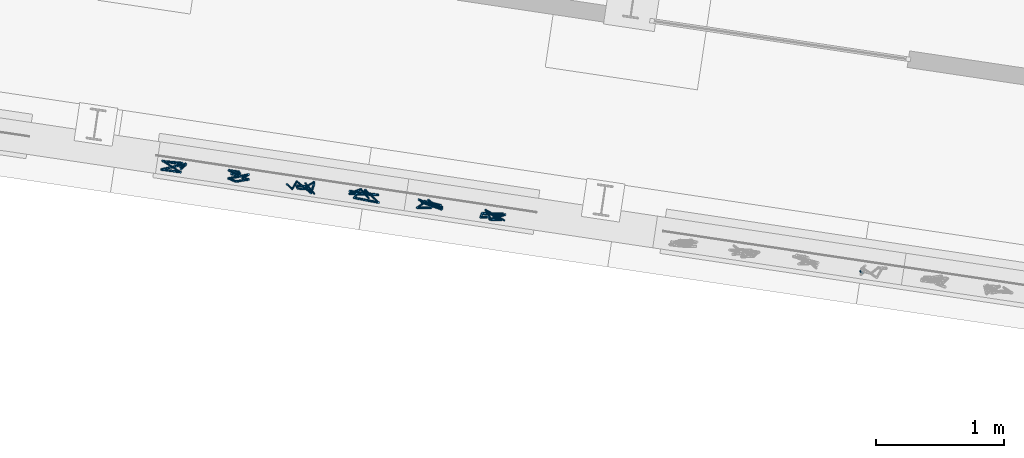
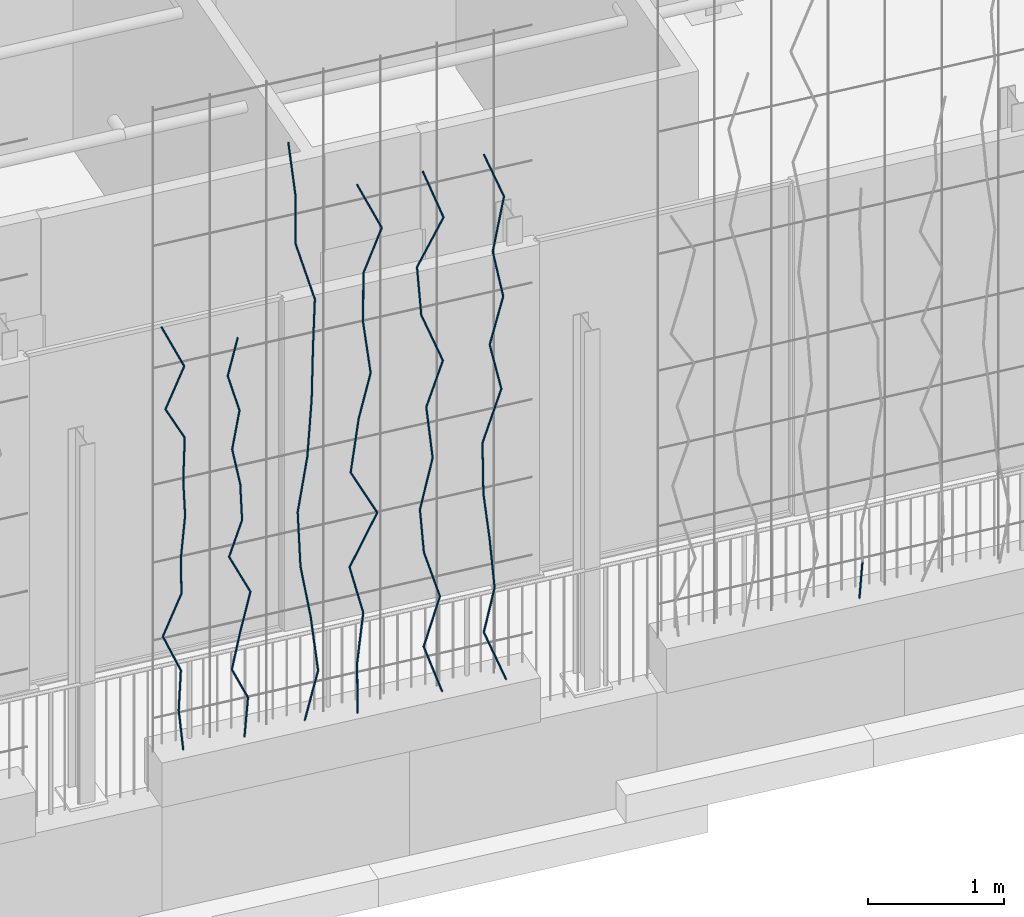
# One storey, part 115 of 142: 67 members, 1 element without a shape of its own.
"""IFC4 building model written with IfcOpenShell, lengths in metres."""

from ifc_helpers import new_model, si_unit, direction, frame, origin_with_axes, place, context, subcontext, project, spatial, circle, extrude, material, material_profile, profile_set, profile_usage, type_object, element, aggregate, save


model = new_model("IFC4")

# Units and contexts
model_context = context("Model", 3, precision=1e-05, world=origin_with_axes(), true_north=direction((0.0, 1.0)))
body_context = subcontext(model_context, "Body", "Model", "MODEL_VIEW")
ifc_project = project(units=[si_unit("VOLUMEUNIT", "CUBIC_METRE"), si_unit("LENGTHUNIT", "METRE"), si_unit("AREAUNIT", "SQUARE_METRE")], contexts=[model_context])

# Site, building, storey
site_placement = place(None, origin_with_axes())
site = spatial("IfcSite", under=ifc_project, at=site_placement, Name="Lares · Rua das Mercês · artigo 4771")
building_placement = place(site_placement, frame((12.0, 10.2, 13.9), z_axis=(0.0, 0.0, 1.0), x_axis=(0.989015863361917, -0.147809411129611, 0.0)))
building = spatial("IfcBuilding", under=site, at=building_placement, Name="Casa Sobreposta")
storey_placement = place(building_placement, origin_with_axes())
storey = spatial("IfcBuildingStorey", under=building, at=storey_placement, Name="00 · Habitação e estacionamento", Elevation=13.9)

# Assembly, members
assembly_placement = place(storey_placement, origin_with_axes())
assembly = element("IfcElementAssembly", 1, at=assembly_placement, inside=storey, Name="Fachada sul e pátio · estrutura e trepadeiras", ObjectType="LIVING_SHADE_TRELLIS", PredefinedType="USERDEFINED")
ifc_material = material(Name="Ramos de trepadeiras", Category="wood")
ifc_material_profile = material_profile(ifc_material, circle(Radius=0.0075))
ifc_profile_set = profile_set([ifc_material_profile], Name="D0.015")
ifc_profile_usage_1 = profile_usage(ifc_profile_set)
member_type = type_object("IfcMemberType", Name="D0.015 / vine_wood", PredefinedType="NOTDEFINED", material=ifc_profile_set)
member_1_placement = place(assembly_placement, frame((12.7127933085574, -1.67677360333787, 0.35), z_axis=(-0.0708595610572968, 0.0849373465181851, 0.993863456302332), x_axis=(0.767872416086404, 0.640602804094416, 0.0)))
member_1 = element("IfcMember", 2, at=member_1_placement, type_object=member_type, material=ifc_profile_usage_1, Name="Trepadeiras · ramo", context=body_context, shape_type="SweptSolid", body=[
    extrude(circle(Radius=0.0075), origin_with_axes(), (0.0, 0.0, 1.0), 0.350241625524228),
])
ifc_profile_usage_2 = profile_usage(ifc_profile_set)
member_2_placement = place(assembly_placement, frame((12.6879753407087, -1.64702500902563, 0.698092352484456), z_axis=(0.057899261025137, 0.0226262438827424, 0.998065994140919), x_axis=(0.363980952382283, -0.931406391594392, 0.0)))
member_2 = element("IfcMember", 3, at=member_2_placement, type_object=member_type, material=ifc_profile_usage_2, Name="Trepadeiras · ramo", context=body_context, shape_type="SweptSolid", body=[
    extrude(circle(Radius=0.0075), origin_with_axes(), (0.0, 0.0, 1.0), 0.348766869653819),
])
ifc_profile_usage_3 = profile_usage(ifc_profile_set)
member_3_placement = place(assembly_placement, frame((12.7081686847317, -1.63913372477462, 1.04618470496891), z_axis=(-0.385457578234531, -0.0204208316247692, 0.922499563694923), x_axis=(-0.0529039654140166, 0.998599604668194, 0.0)))
member_3 = element("IfcMember", 4, at=member_3_placement, type_object=member_type, material=ifc_profile_usage_3, Name="Trepadeiras · ramo", context=body_context, shape_type="SweptSolid", body=[
    extrude(circle(Radius=0.0075), origin_with_axes(), (0.0, 0.0, 1.0), 0.377336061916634),
])
ifc_profile_usage_4 = profile_usage(ifc_profile_set)
member_4_placement = place(assembly_placement, frame((12.5627216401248, -1.64683924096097, 1.39427705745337), z_axis=(0.386179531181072, -0.00507439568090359, 0.922409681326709), x_axis=(-0.0131388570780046, -0.9999136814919, 0.0)))
member_4 = element("IfcMember", 5, at=member_4_placement, type_object=member_type, material=ifc_profile_usage_4, Name="Trepadeiras · ramo", context=body_context, shape_type="SweptSolid", body=[
    extrude(circle(Radius=0.0075), origin_with_axes(), (0.0, 0.0, 1.0), 0.377372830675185),
])
ifc_profile_usage_5 = profile_usage(ifc_profile_set)
member_5_placement = place(assembly_placement, frame((12.7084553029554, -1.64875418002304, 1.74236940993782), z_axis=(-0.0306176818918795, -0.0562072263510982, 0.997949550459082), x_axis=(-0.878163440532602, 0.478360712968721, 0.0)))
member_5 = element("IfcMember", 6, at=member_5_placement, type_object=member_type, material=ifc_profile_usage_5, Name="Trepadeiras · ramo", context=body_context, shape_type="SweptSolid", body=[
    extrude(circle(Radius=0.0075), origin_with_axes(), (0.0, 0.0, 1.0), 0.348807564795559),
])
ifc_profile_usage_6 = profile_usage(ifc_profile_set)
member_6_placement = place(assembly_placement, frame((12.697775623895, -1.66835968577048, 2.09046176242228), z_axis=(0.112899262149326, 0.0509051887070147, 0.992301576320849), x_axis=(0.411039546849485, -0.911617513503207, 0.0)))
member_6 = element("IfcMember", 7, at=member_6_placement, type_object=member_type, material=ifc_profile_usage_6, Name="Trepadeiras · ramo", context=body_context, shape_type="SweptSolid", body=[
    extrude(circle(Radius=0.0075), origin_with_axes(), (0.0, 0.0, 1.0), 0.350792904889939),
])
ifc_profile_usage_7 = profile_usage(ifc_profile_set)
member_7_placement = place(assembly_placement, frame((12.7373798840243, -1.65050250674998, 2.43855411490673), z_axis=(-0.0853498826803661, -0.110841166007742, 0.990166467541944), x_axis=(-0.792321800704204, 0.610103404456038, 0.0)))
member_7 = element("IfcMember", 8, at=member_7_placement, type_object=member_type, material=ifc_profile_usage_7, Name="Trepadeiras · ramo", context=body_context, shape_type="SweptSolid", body=[
    extrude(circle(Radius=0.0075), origin_with_axes(), (0.0, 0.0, 1.0), 0.351549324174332),
])
ifc_profile_usage_8 = profile_usage(ifc_profile_set)
member_8_placement = place(assembly_placement, frame((12.7073751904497, -1.68946864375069, 2.78664646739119), z_axis=(0.0869008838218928, 0.137266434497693, 0.986714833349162), x_axis=(0.844915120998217, -0.534900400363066, 0.0)))
member_8 = element("IfcMember", 9, at=member_8_placement, type_object=member_type, material=ifc_profile_usage_8, Name="Trepadeiras · ramo", context=body_context, shape_type="SweptSolid", body=[
    extrude(circle(Radius=0.0075), origin_with_axes(), (0.0, 0.0, 1.0), 0.352779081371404),
])
ifc_profile_usage_9 = profile_usage(ifc_profile_set)
member_9_placement = place(assembly_placement, frame((12.7380320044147, -1.64104391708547, 3.13473881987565), z_axis=(-0.45311315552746, -0.178326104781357, 0.873434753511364), x_axis=(-0.366216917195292, 0.930529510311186, 0.0)))
member_9 = element("IfcMember", 10, at=member_9_placement, type_object=member_type, material=ifc_profile_usage_9, Name="Trepadeiras · ramo", context=body_context, shape_type="SweptSolid", body=[
    extrude(circle(Radius=0.0075), origin_with_axes(), (0.0, 0.0, 1.0), 0.398532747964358),
])
ifc_profile_usage_10 = profile_usage(ifc_profile_set)
member_10_placement = place(assembly_placement, frame((12.5574515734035, -1.71211270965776, 3.4828311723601), z_axis=(0.394669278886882, 0.00436643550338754, 0.918812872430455), x_axis=(0.0110628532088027, -0.999938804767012, 0.0)))
member_10 = element("IfcMember", 11, at=member_10_placement, type_object=member_type, material=ifc_profile_usage_10, Name="Trepadeiras · ramo", context=body_context, shape_type="SweptSolid", body=[
    extrude(circle(Radius=0.0075), origin_with_axes(), (0.0, 0.0, 1.0), 0.378850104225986),
])
ifc_profile_usage_11 = profile_usage(ifc_profile_set)
member_11_placement = place(assembly_placement, frame((12.7069720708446, -1.71045848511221, 3.83092352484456), z_axis=(-0.397772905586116, 0.174983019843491, 0.900642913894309), x_axis=(0.40266716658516, 0.915346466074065, 0.0)))
member_11 = element("IfcMember", 12, at=member_11_placement, type_object=member_type, material=ifc_profile_usage_11, Name="Trepadeiras · ramo", context=body_context, shape_type="SweptSolid", body=[
    extrude(circle(Radius=0.0075), origin_with_axes(), (0.0, 0.0, 1.0), 0.386493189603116),
])
ifc_profile_usage_12 = profile_usage(ifc_profile_set)
member_12_placement = place(assembly_placement, frame((13.1925460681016, -1.68798436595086, 0.35), z_axis=(0.129026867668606, 0.110183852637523, 0.985500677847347), x_axis=(0.64939521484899, -0.760451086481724, 0.0)))
member_12 = element("IfcMember", 13, at=member_12_placement, type_object=member_type, material=ifc_profile_usage_12, Name="Trepadeiras · ramo", context=body_context, shape_type="SweptSolid", body=[
    extrude(circle(Radius=0.0075), origin_with_axes(), (0.0, 0.0, 1.0), 0.330027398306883),
])
ifc_profile_usage_13 = profile_usage(ifc_profile_set)
member_13_placement = place(assembly_placement, frame((13.23512846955, -1.65162067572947, 0.67524222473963), z_axis=(-0.411476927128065, -0.144758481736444, 0.899850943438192), x_axis=(-0.33186451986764, 0.943327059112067, 0.0)))
member_13 = element("IfcMember", 14, at=member_13_placement, type_object=member_type, material=ifc_profile_usage_13, Name="Trepadeiras · ramo", context=body_context, shape_type="SweptSolid", body=[
    extrude(circle(Radius=0.0075), origin_with_axes(), (0.0, 0.0, 1.0), 0.36144011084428),
])
ifc_profile_usage_14 = profile_usage(ifc_profile_set)
member_14_placement = place(assembly_placement, frame((13.0864042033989, -1.70394219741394, 1.00048444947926), z_axis=(0.179994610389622, -0.0444622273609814, 0.982662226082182), x_axis=(-0.239811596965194, -0.970819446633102, 0.0)))
member_14 = element("IfcMember", 15, at=member_14_placement, type_object=member_type, material=ifc_profile_usage_14, Name="Trepadeiras · ramo", context=body_context, shape_type="SweptSolid", body=[
    extrude(circle(Radius=0.0075), origin_with_axes(), (0.0, 0.0, 1.0), 0.330980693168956),
])
ifc_profile_usage_15 = profile_usage(ifc_profile_set)
member_15_placement = place(assembly_placement, frame((13.1459789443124, -1.71865833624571, 1.32572667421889), z_axis=(0.276463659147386, 0.0892506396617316, 0.956871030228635), x_axis=(0.307217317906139, -0.951639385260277, 0.0)))
member_15 = element("IfcMember", 16, at=member_15_placement, type_object=member_type, material=ifc_profile_usage_15, Name="Trepadeiras · ramo", context=body_context, shape_type="SweptSolid", body=[
    extrude(circle(Radius=0.0075), origin_with_axes(), (0.0, 0.0, 1.0), 0.339901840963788),
])
ifc_profile_usage_16 = profile_usage(ifc_profile_set)
member_16_placement = place(assembly_placement, frame((13.2399494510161, -1.68832187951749, 1.65096889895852), z_axis=(-0.421792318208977, 0.114762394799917, 0.899400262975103), x_axis=(0.262538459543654, 0.964921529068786, 0.0)))
member_16 = element("IfcMember", 17, at=member_16_placement, type_object=member_type, material=ifc_profile_usage_16, Name="Trepadeiras · ramo", context=body_context, shape_type="SweptSolid", body=[
    extrude(circle(Radius=0.0075), origin_with_axes(), (0.0, 0.0, 1.0), 0.361621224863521),
])
ifc_profile_usage_17 = profile_usage(ifc_profile_set)
member_17_placement = place(assembly_placement, frame((13.0874203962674, -1.64682136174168, 1.97621112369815), z_axis=(0.271964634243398, -0.0801035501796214, 0.958967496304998), x_axis=(-0.282536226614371, -0.959256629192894, 0.0)))
member_17 = element("IfcMember", 18, at=member_17_placement, type_object=member_type, material=ifc_profile_usage_17, Name="Trepadeiras · ramo", context=body_context, shape_type="SweptSolid", body=[
    extrude(circle(Radius=0.0075), origin_with_axes(), (0.0, 0.0, 1.0), 0.339158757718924),
])
ifc_profile_usage_18 = profile_usage(ifc_profile_set)
member_18_placement = place(assembly_placement, frame((13.1796595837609, -1.67398918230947, 2.30145334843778), z_axis=(-0.040604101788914, 0.0113517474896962, 0.999110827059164), x_axis=(0.999175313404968, 0.000461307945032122, 0.0406014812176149)))
member_18 = element("IfcMember", 19, at=member_18_placement, type_object=member_type, material=ifc_profile_usage_18, Name="Trepadeiras · ramo", context=body_context, shape_type="SweptSolid", body=[
    extrude(circle(Radius=0.0075), origin_with_axes(), (0.0, 0.0, 1.0), 0.325531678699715),
])
ifc_profile_usage_19 = profile_usage(ifc_profile_set)
member_19_placement = place(assembly_placement, frame((13.1664416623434, -1.67029382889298, 2.62669557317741), z_axis=(-0.187987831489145, 0.0134038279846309, 0.982079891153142), x_axis=(0.0711210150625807, 0.997467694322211, 0.0)))
member_19 = element("IfcMember", 20, at=member_19_placement, type_object=member_type, material=ifc_profile_usage_19, Name="Trepadeiras · ramo", context=body_context, shape_type="SweptSolid", body=[
    extrude(circle(Radius=0.0075), origin_with_axes(), (0.0, 0.0, 1.0), 0.33117695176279),
])
ifc_profile_usage_20 = profile_usage(ifc_profile_set)
member_20_placement = place(assembly_placement, frame((13.1041844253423, -1.66585478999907, 2.95193779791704), z_axis=(0.191647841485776, 0.0413064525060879, 0.980594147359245), x_axis=(0.210694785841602, -0.977551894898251, 0.0)))
member_20 = element("IfcMember", 21, at=member_20_placement, type_object=member_type, material=ifc_profile_usage_20, Name="Trepadeiras · ramo", context=body_context, shape_type="SweptSolid", body=[
    extrude(circle(Radius=0.0075), origin_with_axes(), (0.0, 0.0, 1.0), 0.331678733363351),
])
ifc_profile_usage_21 = profile_usage(ifc_profile_set)
member_21_placement = place(assembly_placement, frame((13.1677499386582, -1.65215431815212, 3.27718002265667), z_axis=(-0.263247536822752, 0.0336082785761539, 0.964142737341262), x_axis=(0.126640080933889, 0.991948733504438, 0.0)))
member_21 = element("IfcMember", 22, at=member_21_placement, type_object=member_type, material=ifc_profile_usage_21, Name="Trepadeiras · ramo", context=body_context, shape_type="SweptSolid", body=[
    extrude(circle(Radius=0.0075), origin_with_axes(), (0.0, 0.0, 1.0), 0.337338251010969),
])
ifc_profile_usage_22 = profile_usage(ifc_profile_set)
member_22_placement = place(assembly_placement, frame((13.0789464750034, -1.64081696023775, 3.6024222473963), z_axis=(0.237284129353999, -0.000512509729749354, 0.97144015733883), x_axis=(-0.00215989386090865, -0.999997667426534, -5.54838557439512e-20)))
member_22 = element("IfcMember", 23, at=member_22_placement, type_object=member_type, material=ifc_profile_usage_22, Name="Trepadeiras · ramo", context=body_context, shape_type="SweptSolid", body=[
    extrude(circle(Radius=0.0075), origin_with_axes(), (0.0, 0.0, 1.0), 0.334804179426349),
])
ifc_profile_usage_23 = profile_usage(ifc_profile_set)
member_23_placement = place(assembly_placement, frame((13.68386961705, -1.65181034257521, 0.35), z_axis=(0.161421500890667, -0.142844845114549, 0.976492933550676), x_axis=(-0.662701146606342, -0.748883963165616, 0.0)))
member_23 = element("IfcMember", 24, at=member_23_placement, type_object=member_type, material=ifc_profile_usage_23, Name="Trepadeiras · ramo", context=body_context, shape_type="SweptSolid", body=[
    extrude(circle(Radius=0.0075), origin_with_axes(), (0.0, 0.0, 1.0), 0.489888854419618),
])
ifc_profile_usage_24 = profile_usage(ifc_profile_set)
member_24_placement = place(assembly_placement, frame((13.7629482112, -1.72178844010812, 0.828373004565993), z_axis=(-0.0969288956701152, 0.0636689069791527, 0.993252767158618), x_axis=(0.54901392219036, 0.835813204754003, 0.0)))
member_24 = element("IfcMember", 25, at=member_24_placement, type_object=member_type, material=ifc_profile_usage_24, Name="Trepadeiras · ramo", context=body_context, shape_type="SweptSolid", body=[
    extrude(circle(Radius=0.0075), origin_with_axes(), (0.0, 0.0, 1.0), 0.481622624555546),
])
ifc_profile_usage_25 = profile_usage(ifc_profile_set)
member_25_placement = place(assembly_placement, frame((13.7162650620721, -1.69112405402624, 1.30674600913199), z_axis=(-0.174459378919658, -0.0213396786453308, 0.984433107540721), x_axis=(-0.121413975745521, 0.992601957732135, 0.0)))
member_25 = element("IfcMember", 26, at=member_25_placement, type_object=member_type, material=ifc_profile_usage_25, Name="Trepadeiras · ramo", context=body_context, shape_type="SweptSolid", body=[
    extrude(circle(Radius=0.0075), origin_with_axes(), (0.0, 0.0, 1.0), 0.485937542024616),
])
ifc_profile_usage_26 = profile_usage(ifc_profile_set)
member_26_placement = place(assembly_placement, frame((13.6314887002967, -1.70149380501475, 1.78511901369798), z_axis=(-0.0282536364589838, 0.0454968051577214, 0.998564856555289), x_axis=(0.849521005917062, 0.527554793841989, 0.0)))
member_26 = element("IfcMember", 27, at=member_26_placement, type_object=member_type, material=ifc_profile_usage_26, Name="Trepadeiras · ramo", context=body_context, shape_type="SweptSolid", body=[
    extrude(circle(Radius=0.0075), origin_with_axes(), (0.0, 0.0, 1.0), 0.479060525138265),
])
ifc_profile_usage_27 = profile_usage(ifc_profile_set)
member_27_placement = place(assembly_placement, frame((13.6179534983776, -1.67969808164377, 2.26349201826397), z_axis=(0.161830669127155, 0.00911167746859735, 0.986776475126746), x_axis=(0.0562147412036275, -0.99841870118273, 0.0)))
member_27 = element("IfcMember", 28, at=member_27_placement, type_object=member_type, material=ifc_profile_usage_27, Name="Trepadeiras · ramo", context=body_context, shape_type="SweptSolid", body=[
    extrude(circle(Radius=0.0075), origin_with_axes(), (0.0, 0.0, 1.0), 0.484783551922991),
])
ifc_profile_usage_28 = profile_usage(ifc_profile_set)
member_28_placement = place(assembly_placement, frame((13.6964063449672, -1.67528089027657, 2.74186502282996), z_axis=(0.103521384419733, 0.0829303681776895, 0.991163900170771), x_axis=(0.625215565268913, -0.78045211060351, 0.0)))
member_28 = element("IfcMember", 29, at=member_28_placement, type_object=member_type, material=ifc_profile_usage_28, Name="Trepadeiras · ramo", context=body_context, shape_type="SweptSolid", body=[
    extrude(circle(Radius=0.0075), origin_with_axes(), (0.0, 0.0, 1.0), 0.482637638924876),
])
ifc_profile_usage_29 = profile_usage(ifc_profile_set)
member_29_placement = place(assembly_placement, frame((13.7463696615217, -1.63525557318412, 3.22023802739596), z_axis=(0.00716802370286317, -0.0369485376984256, 0.999291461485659), x_axis=(0.999974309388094, 0.000264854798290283, -0.00716312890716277)))
member_29 = element("IfcMember", 30, at=member_29_placement, type_object=member_type, material=ifc_profile_usage_29, Name="Trepadeiras · ramo", context=body_context, shape_type="SweptSolid", body=[
    extrude(circle(Radius=0.0075), origin_with_axes(), (0.0, 0.0, 1.0), 0.478712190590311),
])
ifc_profile_usage_30 = profile_usage(ifc_profile_set)
member_30_placement = place(assembly_placement, frame((13.7498010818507, -1.65294328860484, 3.69861103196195), z_axis=(-0.0249719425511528, -0.141403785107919, 0.98963698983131), x_axis=(-0.984761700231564, 0.173909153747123, 0.0)))
member_30 = element("IfcMember", 31, at=member_30_placement, type_object=member_type, material=ifc_profile_usage_30, Name="Trepadeiras · ramo", context=body_context, shape_type="SweptSolid", body=[
    extrude(circle(Radius=0.0075), origin_with_axes(), (0.0, 0.0, 1.0), 0.483382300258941),
])
ifc_profile_usage_31 = profile_usage(ifc_profile_set)
member_31_placement = place(assembly_placement, frame((13.7377300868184, -1.72129537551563, 4.17698403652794), z_axis=(-0.245772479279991, 0.147078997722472, 0.958104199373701), x_axis=(0.513508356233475, 0.85808459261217, 0.0)))
member_31 = element("IfcMember", 32, at=member_31_placement, type_object=member_type, material=ifc_profile_usage_31, Name="Trepadeiras · ramo", context=body_context, shape_type="SweptSolid", body=[
    extrude(circle(Radius=0.0075), origin_with_axes(), (0.0, 0.0, 1.0), 0.499291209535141),
])
ifc_profile_usage_32 = profile_usage(ifc_profile_set)
member_32_placement = place(assembly_placement, frame((13.6150180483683, -1.64786012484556, 4.65535704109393), z_axis=(-0.0539158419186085, -0.132242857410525, 0.989749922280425), x_axis=(-0.92599661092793, 0.37753182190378, 6.01122396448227e-18)))
member_32 = element("IfcMember", 33, at=member_32_placement, type_object=member_type, material=ifc_profile_usage_32, Name="Trepadeiras · ramo", context=body_context, shape_type="SweptSolid", body=[
    extrude(circle(Radius=0.0075), origin_with_axes(), (0.0, 0.0, 1.0), 0.483327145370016),
])
ifc_profile_usage_33 = profile_usage(ifc_profile_set)
member_33_placement = place(assembly_placement, frame((13.5889590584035, -1.71177668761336, 5.13373004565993), z_axis=(-0.0954146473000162, 0.0639742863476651, 0.993379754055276), x_axis=(0.556895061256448, 0.830582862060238, 0.0)))
member_33 = element("IfcMember", 34, at=member_33_placement, type_object=member_type, material=ifc_profile_usage_33, Name="Trepadeiras · ramo", context=body_context, shape_type="SweptSolid", body=[
    extrude(circle(Radius=0.0075), origin_with_axes(), (0.0, 0.0, 1.0), 0.481561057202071),
])
ifc_profile_usage_34 = profile_usage(ifc_profile_set)
member_34_placement = place(assembly_placement, frame((14.0801023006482, -1.70934968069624, 0.35), z_axis=(0.0242468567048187, 0.0771941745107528, 0.996721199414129), x_axis=(0.954043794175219, -0.299667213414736, 0.0)))
member_34 = element("IfcMember", 35, at=member_34_placement, type_object=member_type, material=ifc_profile_usage_34, Name="Trepadeiras · ramo", context=body_context, shape_type="SweptSolid", body=[
    extrude(circle(Radius=0.0075), origin_with_axes(), (0.0, 0.0, 1.0), 0.434431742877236),
])
ifc_profile_usage_35 = profile_usage(ifc_profile_set)
member_35_placement = place(assembly_placement, frame((14.0906359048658, -1.67581408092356, 0.783007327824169), z_axis=(0.120375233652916, 0.0239402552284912, 0.992439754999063), x_axis=(0.195060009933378, -0.980791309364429, 0.0)))
member_35 = element("IfcMember", 36, at=member_35_placement, type_object=member_type, material=ifc_profile_usage_35, Name="Trepadeiras · ramo", context=body_context, shape_type="SweptSolid", body=[
    extrude(circle(Radius=0.0075), origin_with_axes(), (0.0, 0.0, 1.0), 0.436305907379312),
])
ifc_profile_usage_36 = profile_usage(ifc_profile_set)
member_36_placement = place(assembly_placement, frame((14.1431563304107, -1.6653688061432, 1.21601465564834), z_axis=(-0.239967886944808, 0.00779781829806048, 0.970749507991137), x_axis=(0.0324781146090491, 0.999472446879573, 0.0)))
member_36 = element("IfcMember", 37, at=member_36_placement, type_object=member_type, material=ifc_profile_usage_36, Name="Trepadeiras · ramo", context=body_context, shape_type="SweptSolid", body=[
    extrude(circle(Radius=0.0075), origin_with_axes(), (0.0, 0.0, 1.0), 0.446054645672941),
])
ifc_profile_usage_37 = profile_usage(ifc_profile_set)
member_37_placement = place(assembly_placement, frame((14.0361175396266, -1.66189055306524, 1.64902198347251), z_axis=(0.454417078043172, 0.00664542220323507, 0.890764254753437), x_axis=(0.0146224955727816, -0.999893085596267, 0.0)))
member_37 = element("IfcMember", 38, at=member_37_placement, type_object=member_type, material=ifc_profile_usage_37, Name="Trepadeiras · ramo", context=body_context, shape_type="SweptSolid", body=[
    extrude(circle(Radius=0.0075), origin_with_axes(), (0.0, 0.0, 1.0), 0.486107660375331),
])
ifc_profile_usage_38 = profile_usage(ifc_profile_set)
member_38_placement = place(assembly_placement, frame((14.2570131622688, -1.65866016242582, 2.08202931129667), z_axis=(-0.452892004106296, -0.0486535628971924, 0.890236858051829), x_axis=(-0.106814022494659, 0.994279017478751, 0.0)))
member_38 = element("IfcMember", 39, at=member_38_placement, type_object=member_type, material=ifc_profile_usage_38, Name="Trepadeiras · ramo", context=body_context, shape_type="SweptSolid", body=[
    extrude(circle(Radius=0.0075), origin_with_axes(), (0.0, 0.0, 1.0), 0.486395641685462),
])
ifc_profile_usage_39 = profile_usage(ifc_profile_set)
member_39_placement = place(assembly_placement, frame((14.0367284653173, -1.68232504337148, 2.51503663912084), z_axis=(0.185178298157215, 0.106445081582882, 0.976922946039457), x_axis=(0.498356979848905, -0.866971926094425, 0.0)))
member_39 = element("IfcMember", 40, at=member_39_placement, type_object=member_type, material=ifc_profile_usage_39, Name="Trepadeiras · ramo", context=body_context, shape_type="SweptSolid", body=[
    extrude(circle(Radius=0.0075), origin_with_axes(), (0.0, 0.0, 1.0), 0.44323590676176),
])
ifc_profile_usage_40 = profile_usage(ifc_profile_set)
member_40_placement = place(assembly_placement, frame((14.1188061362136, -1.63514476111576, 2.94804396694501), z_axis=(0.16008716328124, -0.137571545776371, 0.977469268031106), x_axis=(-0.651757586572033, -0.758427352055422, 0.0)))
member_40 = element("IfcMember", 41, at=member_40_placement, type_object=member_type, material=ifc_profile_usage_40, Name="Trepadeiras · ramo", context=body_context, shape_type="SweptSolid", body=[
    extrude(circle(Radius=0.0075), origin_with_axes(), (0.0, 0.0, 1.0), 0.442988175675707),
])
ifc_profile_usage_41 = profile_usage(ifc_profile_set)
member_41_placement = place(assembly_placement, frame((14.1897228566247, -1.69608732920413, 3.38105129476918), z_axis=(-0.0964124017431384, 0.098577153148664, 0.990447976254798), x_axis=(0.714912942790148, 0.699213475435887, 0.0)))
member_41 = element("IfcMember", 42, at=member_41_placement, type_object=member_type, material=ifc_profile_usage_41, Name="Trepadeiras · ramo", context=body_context, shape_type="SweptSolid", body=[
    extrude(circle(Radius=0.0075), origin_with_axes(), (0.0, 0.0, 1.0), 0.437183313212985),
])
ifc_profile_usage_42 = profile_usage(ifc_profile_set)
member_42_placement = place(assembly_placement, frame((14.1475729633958, -1.65299104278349, 3.81405862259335), z_axis=(0.0181112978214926, 0.0402266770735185, 0.999026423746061), x_axis=(0.999835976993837, -0.000728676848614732, -0.0180966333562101)))
member_42 = element("IfcMember", 43, at=member_42_placement, type_object=member_type, material=ifc_profile_usage_42, Name="Trepadeiras · ramo", context=body_context, shape_type="SweptSolid", body=[
    extrude(circle(Radius=0.0075), origin_with_axes(), (0.0, 0.0, 1.0), 0.433429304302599),
])
ifc_profile_usage_43 = profile_usage(ifc_profile_set)
member_43_placement = place(assembly_placement, frame((14.1554229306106, -1.63555562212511, 4.24706595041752), z_axis=(0.251645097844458, -0.177773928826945, 0.951352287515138), x_axis=(-0.576990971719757, -0.816750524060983, 0.0)))
member_43 = element("IfcMember", 44, at=member_43_placement, type_object=member_type, material=ifc_profile_usage_43, Name="Trepadeiras · ramo", context=body_context, shape_type="SweptSolid", body=[
    extrude(circle(Radius=0.0075), origin_with_axes(), (0.0, 0.0, 1.0), 0.455149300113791),
])
ifc_profile_usage_44 = profile_usage(ifc_profile_set)
member_44_placement = place(assembly_placement, frame((14.2699590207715, -1.71646930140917, 4.68007327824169), z_axis=(-0.406842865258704, 0.0169823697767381, 0.913340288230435), x_axis=(0.0417055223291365, 0.999129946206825, 0.0)))
member_44 = element("IfcMember", 45, at=member_44_placement, type_object=member_type, material=ifc_profile_usage_44, Name="Trepadeiras · ramo", context=body_context, shape_type="SweptSolid", body=[
    extrude(circle(Radius=0.0075), origin_with_axes(), (0.0, 0.0, 1.0), 0.474092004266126),
])
ifc_profile_usage_45 = profile_usage(ifc_profile_set)
member_45_placement = place(assembly_placement, frame((14.7652704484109, -1.6778966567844, 0.35), z_axis=(-0.30796633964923, 0.052787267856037, 0.949931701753), x_axis=(0.168942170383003, 0.985625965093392, 0.0)))
member_45 = element("IfcMember", 46, at=member_45_placement, type_object=member_type, material=ifc_profile_usage_45, Name="Trepadeiras · ramo", context=body_context, shape_type="SweptSolid", body=[
    extrude(circle(Radius=0.0075), origin_with_axes(), (0.0, 0.0, 1.0), 0.450587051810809),
])
ifc_profile_usage_46 = profile_usage(ifc_profile_set)
member_46_placement = place(assembly_placement, frame((14.6265048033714, -1.654111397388, 0.778026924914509), z_axis=(0.278700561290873, -0.0263394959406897, 0.960016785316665), x_axis=(-0.0940889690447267, -0.995563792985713, 0.0)))
member_46 = element("IfcMember", 47, at=member_46_placement, type_object=member_type, material=ifc_profile_usage_46, Name="Trepadeiras · ramo", context=body_context, shape_type="SweptSolid", body=[
    extrude(circle(Radius=0.0075), origin_with_axes(), (0.0, 0.0, 1.0), 0.445853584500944),
])
ifc_profile_usage_47 = profile_usage(ifc_profile_set)
member_47_placement = place(assembly_placement, frame((14.7507644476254, -1.66585495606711, 1.20605384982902), z_axis=(-0.284107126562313, 0.00180733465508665, 0.958790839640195), x_axis=(0.00636132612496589, 0.99997976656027, 0.0)))
member_47 = element("IfcMember", 48, at=member_47_placement, type_object=member_type, material=ifc_profile_usage_47, Name="Trepadeiras · ramo", context=body_context, shape_type="SweptSolid", body=[
    extrude(circle(Radius=0.0075), origin_with_axes(), (0.0, 0.0, 1.0), 0.446423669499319),
])
ifc_profile_usage_48 = profile_usage(ifc_profile_set)
member_48_placement = place(assembly_placement, frame((14.6239323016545, -1.66504811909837, 1.63408077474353), z_axis=(-0.114140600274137, -0.105855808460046, 0.987808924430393), x_axis=(-0.679996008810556, 0.733215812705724, 0.0)))
member_48 = element("IfcMember", 49, at=member_48_placement, type_object=member_type, material=ifc_profile_usage_48, Name="Trepadeiras · ramo", context=body_context, shape_type="SweptSolid", body=[
    extrude(circle(Radius=0.0075), origin_with_axes(), (0.0, 0.0, 1.0), 0.433309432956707),
])
ifc_profile_usage_49 = profile_usage(ifc_profile_set)
member_49_placement = place(assembly_placement, frame((14.5744741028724, -1.71091643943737, 2.06210769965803), z_axis=(0.242351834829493, 0.0355919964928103, 0.96953535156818), x_axis=(0.145302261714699, -0.989387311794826, 0.0)))
member_49 = element("IfcMember", 50, at=member_49_placement, type_object=member_type, material=ifc_profile_usage_49, Name="Trepadeiras · ramo", context=body_context, shape_type="SweptSolid", body=[
    extrude(circle(Radius=0.0075), origin_with_axes(), (0.0, 0.0, 1.0), 0.441476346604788),
])
ifc_profile_usage_50 = profile_usage(ifc_profile_set)
member_50_placement = place(assembly_placement, frame((14.6814667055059, -1.69520341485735, 2.49013462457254), z_axis=(-0.0667873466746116, 0.126541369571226, 0.989710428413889), x_axis=(0.88438006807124, 0.466767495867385, 0.0)))
member_50 = element("IfcMember", 51, at=member_50_placement, type_object=member_type, material=ifc_profile_usage_50, Name="Trepadeiras · ramo", context=body_context, shape_type="SweptSolid", body=[
    extrude(circle(Radius=0.0075), origin_with_axes(), (0.0, 0.0, 1.0), 0.432476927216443),
])
ifc_profile_usage_51 = profile_usage(ifc_profile_set)
member_51_placement = place(assembly_placement, frame((14.6525827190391, -1.64047719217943, 2.91816154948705), z_axis=(0.246034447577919, -0.124841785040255, 0.961187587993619), x_axis=(-0.452496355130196, -0.891766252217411, 0.0)))
member_51 = element("IfcMember", 52, at=member_51_placement, type_object=member_type, material=ifc_profile_usage_51, Name="Trepadeiras · ramo", context=body_context, shape_type="SweptSolid", body=[
    extrude(circle(Radius=0.0075), origin_with_axes(), (0.0, 0.0, 1.0), 0.445310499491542),
])
ifc_profile_usage_52 = profile_usage(ifc_profile_set)
member_52_placement = place(assembly_placement, frame((14.7621444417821, -1.69607054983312, 3.34618847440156), z_axis=(-0.346624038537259, 0.069377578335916, 0.935434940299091), x_axis=(0.196259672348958, 0.980551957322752, 0.0)))
member_52 = element("IfcMember", 53, at=member_52_placement, type_object=member_type, material=ifc_profile_usage_52, Name="Trepadeiras · ramo", context=body_context, shape_type="SweptSolid", body=[
    extrude(circle(Radius=0.0075), origin_with_axes(), (0.0, 0.0, 1.0), 0.457569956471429),
])
ifc_profile_usage_53 = profile_usage(ifc_profile_set)
member_53_placement = place(assembly_placement, frame((14.6035396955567, -1.66432545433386, 3.77421539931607), z_axis=(-0.0629217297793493, 0.040966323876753, 0.997177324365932), x_axis=(0.545617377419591, 0.83803441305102, 0.0)))
member_53 = element("IfcMember", 54, at=member_53_placement, type_object=member_type, material=ifc_profile_usage_53, Name="Trepadeiras · ramo", context=body_context, shape_type="SweptSolid", body=[
    extrude(circle(Radius=0.0075), origin_with_axes(), (0.0, 0.0, 1.0), 0.429238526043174),
])
ifc_profile_usage_54 = profile_usage(ifc_profile_set)
member_54_placement = place(assembly_placement, frame((14.5765312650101, -1.6467411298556, 4.20224232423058), z_axis=(0.408014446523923, -0.0961506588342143, 0.907898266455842), x_axis=(-0.229372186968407, -0.97333878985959, 0.0)))
member_54 = element("IfcMember", 55, at=member_54_placement, type_object=member_type, material=ifc_profile_usage_54, Name="Trepadeiras · ramo", context=body_context, shape_type="SweptSolid", body=[
    extrude(circle(Radius=0.0075), origin_with_axes(), (0.0, 0.0, 1.0), 0.471448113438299),
])
ifc_profile_usage_55 = profile_usage(ifc_profile_set)
member_55_placement = place(assembly_placement, frame((14.7688889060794, -1.69207117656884, 4.63026924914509), z_axis=(-0.329981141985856, 0.0809074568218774, 0.940513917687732), x_axis=(0.238134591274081, 0.971232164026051, 0.0)))
member_55 = element("IfcMember", 56, at=member_55_placement, type_object=member_type, material=ifc_profile_usage_55, Name="Trepadeiras · ramo", context=body_context, shape_type="SweptSolid", body=[
    extrude(circle(Radius=0.0075), origin_with_axes(), (0.0, 0.0, 1.0), 0.45509898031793),
])
ifc_profile_usage_56 = profile_usage(ifc_profile_set)
member_56_placement = place(assembly_placement, frame((15.2607594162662, -1.7095147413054, 0.35), z_axis=(-0.337365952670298, 0.127105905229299, 0.932753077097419), x_axis=(0.352566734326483, 0.935786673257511, 0.0)))
member_56 = element("IfcMember", 57, at=member_56_placement, type_object=member_type, material=ifc_profile_usage_56, Name="Trepadeiras · ramo", context=body_context, shape_type="SweptSolid", body=[
    extrude(circle(Radius=0.0075), origin_with_axes(), (0.0, 0.0, 1.0), 0.463665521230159),
])
ifc_profile_usage_57 = profile_usage(ifc_profile_set)
member_57_placement = place(assembly_placement, frame((15.104334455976, -1.65058011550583, 0.782485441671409), z_axis=(0.128975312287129, -0.164258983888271, 0.977949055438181), x_axis=(-0.786516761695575, -0.617568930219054, 0.0)))
member_57 = element("IfcMember", 58, at=member_57_placement, type_object=member_type, material=ifc_profile_usage_57, Name="Trepadeiras · ramo", context=body_context, shape_type="SweptSolid", body=[
    extrude(circle(Radius=0.0075), origin_with_axes(), (0.0, 0.0, 1.0), 0.44223718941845),
])
ifc_profile_usage_58 = profile_usage(ifc_profile_set)
member_58_placement = place(assembly_placement, frame((15.1613721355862, -1.72322154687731, 1.21497088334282), z_axis=(-0.0719495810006, 0.0477886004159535, 0.996262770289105), x_axis=(0.553274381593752, 0.832999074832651, 0.0)))
member_58 = element("IfcMember", 59, at=member_58_placement, type_object=member_type, material=ifc_profile_usage_58, Name="Trepadeiras · ramo", context=body_context, shape_type="SweptSolid", body=[
    extrude(circle(Radius=0.0075), origin_with_axes(), (0.0, 0.0, 1.0), 0.4341078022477),
])
ifc_profile_usage_59 = profile_usage(ifc_profile_set)
member_59_placement = place(assembly_placement, frame((15.1301382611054, -1.70247614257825, 1.64745632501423), z_axis=(-0.123832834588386, -0.0263375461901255, 0.991953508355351), x_axis=(-0.208033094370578, 0.978121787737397, 0.0)))
member_59 = element("IfcMember", 60, at=member_59_placement, type_object=member_type, material=ifc_profile_usage_59, Name="Trepadeiras · ramo", context=body_context, shape_type="SweptSolid", body=[
    extrude(circle(Radius=0.0075), origin_with_axes(), (0.0, 0.0, 1.0), 0.435993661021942),
])
ifc_profile_usage_60 = profile_usage(ifc_profile_set)
member_60_placement = place(assembly_placement, frame((15.0761479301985, -1.71395914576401, 2.07994176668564), z_axis=(0.0132062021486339, 0.0761319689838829, 0.997010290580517), x_axis=(0.985286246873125, -0.170912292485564, 0.0)))
member_60 = element("IfcMember", 61, at=member_60_placement, type_object=member_type, material=ifc_profile_usage_60, Name="Trepadeiras · ramo", context=body_context, shape_type="SweptSolid", body=[
    extrude(circle(Radius=0.0075), origin_with_axes(), (0.0, 0.0, 1.0), 0.433782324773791),
])
ifc_profile_usage_61 = profile_usage(ifc_profile_set)
member_61_placement = place(assembly_placement, frame((15.0818765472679, -1.68093444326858, 2.51242720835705), z_axis=(0.342762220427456, 0.0461039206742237, 0.93829019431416), x_axis=(0.133306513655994, -0.991074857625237, 0.0)))
member_61 = element("IfcMember", 62, at=member_61_placement, type_object=member_type, material=ifc_profile_usage_61, Name="Trepadeiras · ramo", context=body_context, shape_type="SweptSolid", body=[
    extrude(circle(Radius=0.0075), origin_with_axes(), (0.0, 0.0, 1.0), 0.460929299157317),
])
ifc_profile_usage_62 = profile_usage(ifc_profile_set)
member_62_placement = place(assembly_placement, frame((15.2398656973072, -1.6596837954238, 2.94491265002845), z_axis=(-0.222915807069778, -0.036643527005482, 0.974148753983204), x_axis=(-0.162205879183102, 0.986756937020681, 0.0)))
member_62 = element("IfcMember", 63, at=member_62_placement, type_object=member_type, material=ifc_profile_usage_62, Name="Trepadeiras · ramo", context=body_context, shape_type="SweptSolid", body=[
    extrude(circle(Radius=0.0075), origin_with_axes(), (0.0, 0.0, 1.0), 0.443962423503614),
])
ifc_profile_usage_63 = profile_usage(ifc_profile_set)
member_63_placement = place(assembly_placement, frame((15.1408994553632, -1.67595214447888, 3.37739809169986), z_axis=(0.213066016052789, -0.0735330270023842, 0.974266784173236), x_axis=(-0.326236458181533, -0.945288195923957, 0.0)))
member_63 = element("IfcMember", 64, at=member_63_placement, type_object=member_type, material=ifc_profile_usage_63, Name="Trepadeiras · ramo", context=body_context, shape_type="SweptSolid", body=[
    extrude(circle(Radius=0.0075), origin_with_axes(), (0.0, 0.0, 1.0), 0.443908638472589),
])
ifc_profile_usage_64 = profile_usage(ifc_profile_set)
member_64_placement = place(assembly_placement, frame((15.235481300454, -1.70859409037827, 3.80988353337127), z_axis=(-0.19816638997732, -0.0243245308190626, 0.979866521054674), x_axis=(-0.1218336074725, 0.992550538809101, 0.0)))
member_64 = element("IfcMember", 65, at=member_64_placement, type_object=member_type, material=ifc_profile_usage_64, Name="Trepadeiras · ramo", context=body_context, shape_type="SweptSolid", body=[
    extrude(circle(Radius=0.0075), origin_with_axes(), (0.0, 0.0, 1.0), 0.441371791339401),
])
ifc_profile_usage_65 = profile_usage(ifc_profile_set)
member_65_placement = place(assembly_placement, frame((15.1480162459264, -1.71933025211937, 4.24236897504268), z_axis=(0.246754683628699, 0.121737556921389, 0.961401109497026), x_axis=(0.44243957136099, -0.896798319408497, 0.0)))
member_65 = element("IfcMember", 66, at=member_65_placement, type_object=member_type, material=ifc_profile_usage_65, Name="Trepadeiras · ramo", context=body_context, shape_type="SweptSolid", body=[
    extrude(circle(Radius=0.0075), origin_with_axes(), (0.0, 0.0, 1.0), 0.449849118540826),
])
ifc_profile_usage_66 = profile_usage(ifc_profile_set)
member_66_placement = place(assembly_placement, frame((15.2590186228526, -1.66456671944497, 4.67485441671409), z_axis=(-0.360268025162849, -0.0428537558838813, 0.931863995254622), x_axis=(-0.118116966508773, 0.992999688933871, 0.0)))
member_66 = element("IfcMember", 67, at=member_66_placement, type_object=member_type, material=ifc_profile_usage_66, Name="Trepadeiras · ramo", context=body_context, shape_type="SweptSolid", body=[
    extrude(circle(Radius=0.0075), origin_with_axes(), (0.0, 0.0, 1.0), 0.464107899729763),
])
ifc_profile_usage_67 = profile_usage(ifc_profile_set)
member_67_placement = place(assembly_placement, frame((18.0649791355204, -1.69076987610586, 0.35), z_axis=(0.0584111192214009, -0.0341001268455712, 0.997710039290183), x_axis=(-0.504168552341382, -0.863605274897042, 0.0)))
member_67 = element("IfcMember", 68, at=member_67_placement, type_object=member_type, material=ifc_profile_usage_67, Name="Trepadeiras · ramo", context=body_context, shape_type="SweptSolid", body=[
    extrude(circle(Radius=0.0075), origin_with_axes(), (0.0, 0.0, 1.0), 0.333022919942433),
])
aggregate(assembly, [member_1, member_2, member_3, member_4, member_5, member_6, member_7, member_8, member_9, member_10, member_11, member_12, member_13, member_14, member_15, member_16, member_17, member_18, member_19, member_20, member_21, member_22, member_23, member_24, member_25, member_26, member_27, member_28, member_29, member_30, member_31, member_32, member_33, member_34, member_35, member_36, member_37, member_38, member_39, member_40, member_41, member_42, member_43, member_44, member_45, member_46, member_47, member_48, member_49, member_50, member_51, member_52, member_53, member_54, member_55, member_56, member_57, member_58, member_59, member_60, member_61, member_62, member_63, member_64, member_65, member_66, member_67])

save(model, "model.ifc")
